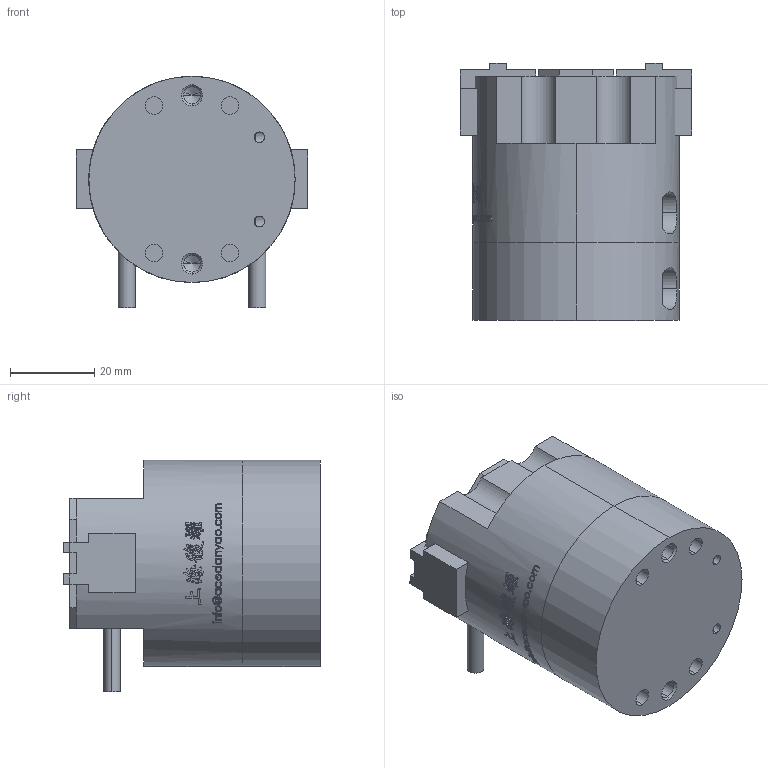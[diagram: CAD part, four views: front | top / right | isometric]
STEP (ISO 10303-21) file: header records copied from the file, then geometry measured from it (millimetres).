
FILE_DESCRIPTION (( 'STEP AP203' ), '1' );
FILE_NAME ('OPM-050-C1-MC&MA-原始檔-組合-W106.04.18.STEP', '2017-04-18T03:53:32', ( 'DanyaoCAD' ), ( '' ), 'SwSTEP 2.0', 'SolidWorks 2016', '' );
FILE_SCHEMA (( 'CONFIG_CONTROL_DESIGN' ));
Length unit declared in the file: millimetre
Products named in the file (4): Griffa; Fondello; Corpo; OPM-050-C1-MC&MA-原始檔-組合-W106.04.18
Assembly tree (4 placements, depth 2):
  OPM-050-C1-MC&MA-原始檔-組合-W106.04.18
    Griffa  x2
    Fondello
    Corpo
Bounding box: 55 x 61 x 55 mm (x, y, z)
Volume: 98553.1 mm3; surface area: 26121.4 mm2
Topology: 4 solids, 4 shells, 984 faces, 2733 edges, 1810 vertices
Faces by surface type: bspline 665, plane 186, cylinder 117, cone 16
Entity records: 74151 total; most frequent: CARTESIAN_POINT 55111, ORIENTED_EDGE 5288, EDGE_CURVE 2644, B_SPLINE_CURVE_WITH_KNOTS 2043, VERTEX_POINT 1756, DIRECTION 1412, EDGE_LOOP 1030, ADVANCED_FACE 953
